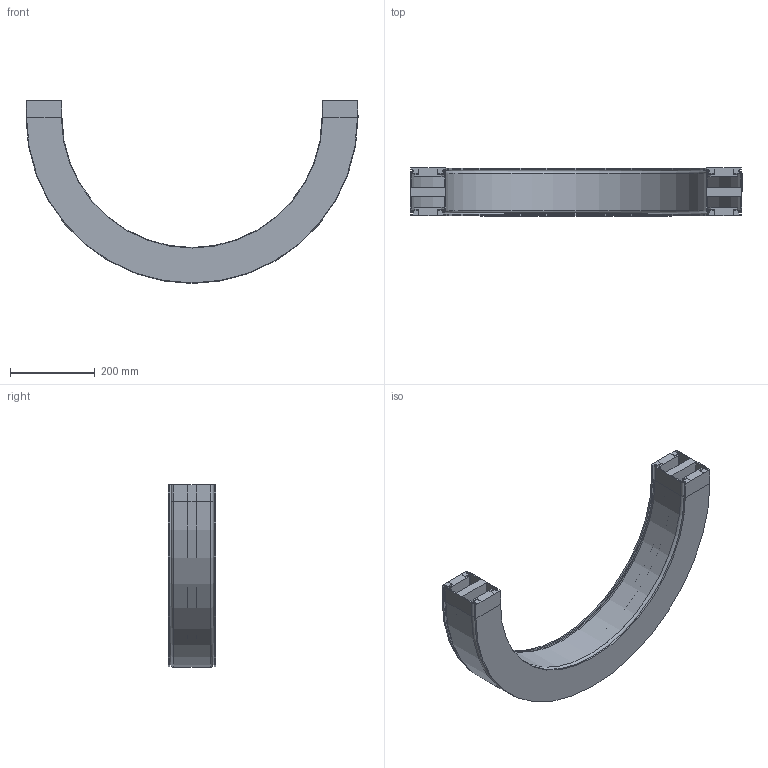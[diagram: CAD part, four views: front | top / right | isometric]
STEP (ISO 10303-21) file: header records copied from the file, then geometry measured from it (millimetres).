
FILE_DESCRIPTION (( 'STEP AP214' ), '1' );
FILE_NAME ('VC.85 Horizontale bochtsectie R350 180°.STEP', '2016-10-19T07:03:25', ( '' ), ( '' ), 'SwSTEP 2.0', 'SolidWorks 2016', '' );
FILE_SCHEMA (( 'AUTOMOTIVE_DESIGN' ));
Length unit declared in the file: millimetre
Products named in the file (1): VC.85 Horizontale bochtsectie R350 180°
Bounding box: 785 x 113 x 432.5 mm (x, y, z)
Volume: 5623103.8 mm3; surface area: 1293726.4 mm2
Topology: 1 solids, 1 shells, 210 faces, 488 edges, 280 vertices
Faces by surface type: plane 152, cylinder 38, cone 12, torus 8
Entity records: 5814 total; most frequent: DIRECTION 1018, CARTESIAN_POINT 979, ORIENTED_EDGE 976, EDGE_CURVE 488, VECTOR 380, LINE 380, AXIS2_PLACEMENT_3D 319, VERTEX_POINT 280
